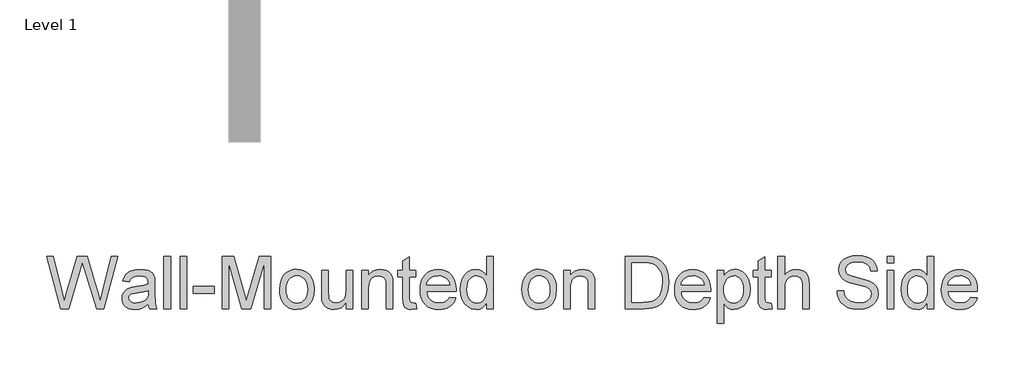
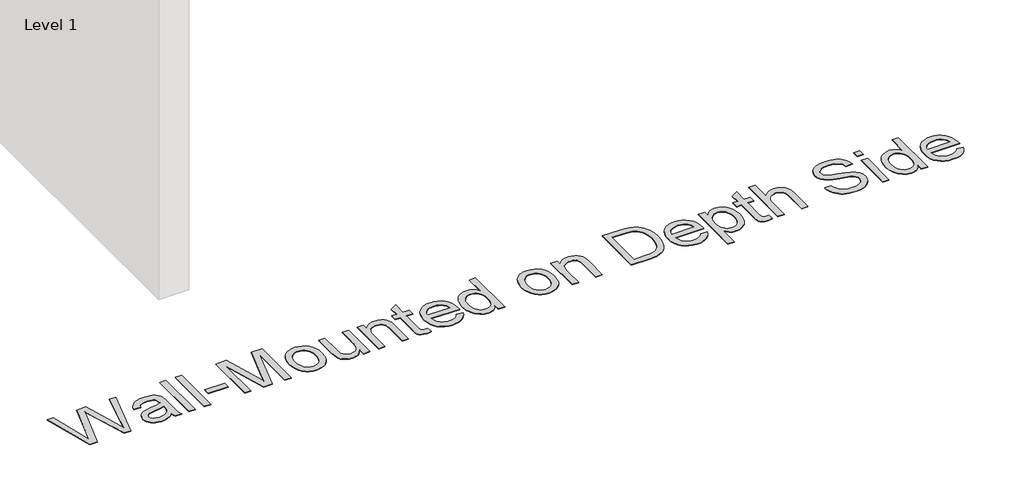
# One storey, part 59 of 80: 1 proxy.
"""IFC4 building model written with IfcOpenShell, lengths in millimetres."""

from ifc_helpers import new_model, si_unit, origin, origin_with_axes, place, context, project, spatial, polyline, outline, extrude, element, save

model = new_model("IFC4")

# Units and contexts
model_context = context("Model", 3, world=origin())
ifc_project = project(units=[si_unit("LENGTHUNIT", "METRE", prefix="MILLI")], contexts=[model_context])

# Site, building, storey
site = spatial("IfcSite", under=ifc_project)
building = spatial("IfcBuilding", under=site)
storey = spatial("IfcBuildingStorey", under=building, Name="Level 1", Elevation=0.0)

# Proxy
placement = place(None, origin())
element("IfcBuildingElementProxy", 1, Name="500mm Arial", ObjectType="500mm Arial", at=placement, inside=storey, context=model_context, shape_type="SweptSolid", body=[
    extrude(outline(polyline([(141005.9311671, 63184.635256), (140868.9564376, 63686.9168067), (140933.7036687, 63686.9168067), (141013.1661797, 63356.8040297), (141037.691646, 63254.9007171), (141063.933895, 63345.0318059), (141163.5072884, 63686.9168067), (141256.8266878, 63686.9168067), (141329.1768136, 63439.0869693), (141360.1708716, 63347.1164705), (141383.0102122, 63254.9007171), (141406.7999145, 63353.8609738), (141486.9981895, 63686.9168067), (141551.7454206, 63686.9168067), (141414.6480638, 63184.635256), (141347.5709133, 63184.635256), (141227.1508736, 63572.1376242), (141210.3509291, 63626.2162775), (141191.46632, 63561.1011644), (141081.7148581, 63184.635256), (141005.9311671, 63184.635256)])), origin_with_axes(), (0.0, 0.0, 1.0), 5.0),
    extrude(outline(polyline([(141842.1269422, 63231.7241514), (141812.1292311, 63206.0030685), (141781.242472, 63189.1724673), (141748.7615575, 63179.8834469), (141713.9813805, 63176.7871068), (141686.026181, 63178.6495094), (141661.5122109, 63184.2367172), (141640.4394704, 63193.5487302), (141622.8079594, 63206.5855484), (141608.8859251, 63222.5194373), (141598.9416149, 63240.5226624), (141592.9750288, 63260.5952238), (141590.9861668, 63282.7371214), (141593.9905364, 63308.7647725), (141603.0036453, 63332.4011907), (141616.906519, 63352.6347005), (141634.5801832, 63368.4536262), (141655.3501875, 63380.4097911), (141678.5420816, 63389.055018), (141732.8659896, 63398.4973225), (141797.0613978, 63408.4301364), (141841.7590602, 63420.0797329), (141842.1269422, 63434.0592487), (141837.8043287, 63462.079594), (141824.8364884, 63480.4123801), (141811.7613491, 63488.3524998), (141795.8351244, 63494.0240139), (141755.4294186, 63498.5612252), (141718.0280825, 63495.5415272), (141691.9084608, 63486.482433), (141674.0968409, 63469.7284738), (141661.6195099, 63443.6241806), (141598.834316, 63451.4723298), (141609.7328201, 63485.8079827), (141625.99627, 63512.7859957), (141649.1421789, 63533.4180443), (141680.6880599, 63548.7158039), (141719.2696842, 63558.1887653), (141763.5228225, 63561.3464191), (141805.9672077, 63558.5566473), (141839.6130819, 63550.1873319), (141864.9816111, 63537.6027019), (141882.5939616, 63522.1669866), (141894.274215, 63503.0831081), (141901.8464527, 63479.5539888), (141904.912136, 63424.6169442), (141904.912136, 63346.5033339), (141908.1004466, 63237.4263223), (141912.8215989, 63210.4636377), (141920.6084345, 63184.635256), (141857.8232406, 63184.635256), (141847.7677994, 63206.462921), (141842.1269422, 63231.7241514)]), holes=[polyline([(141842.1269422, 63357.2945391), (141799.94314, 63346.840559), (141740.8367662, 63338.042048), (141686.8194265, 63327.8639794), (141672.7632686, 63320.9048784), (141662.3552739, 63311.3092897), (141655.9173389, 63299.8129773), (141653.7713606, 63287.1517053), (141658.4465277, 63268.4816941), (141672.4720287, 63253.1839344), (141695.5412955, 63242.9752091), (141727.3477597, 63239.5723006), (141761.0702759, 63243.3277626), (141790.8687175, 63254.5941487), (141815.0263018, 63271.1948238), (141831.8262463, 63290.9531526), (141839.2758567, 63311.3092897), (141841.7590602, 63339.513576), (141842.1269422, 63357.2945391)])]), origin_with_axes(), (0.0, 0.0, 1.0), 5.0),
    extrude(outline(polyline([(141991.2417775, 63184.635256), (141991.2417775, 63686.9168067), (142054.0269714, 63686.9168067), (142054.0269714, 63184.635256), (141991.2417775, 63184.635256)])), origin_with_axes(), (0.0, 0.0, 1.0), 5.0),
    extrude(outline(polyline([(142148.2047621, 63184.635256), (142148.2047621, 63686.9168067), (142210.989956, 63686.9168067), (142210.989956, 63184.635256), (142148.2047621, 63184.635256)])), origin_with_axes(), (0.0, 0.0, 1.0), 5.0),
    extrude(outline(polyline([(142273.7751498, 63333.7500914), (142273.7751498, 63396.5352852), (142469.9788806, 63396.5352852), (142469.9788806, 63333.7500914), (142273.7751498, 63333.7500914)])), origin_with_axes(), (0.0, 0.0, 1.0), 5.0),
    extrude(outline(polyline([(142548.4603729, 63184.635256), (142548.4603729, 63686.9168067), (142656.4950522, 63686.9168067), (142759.2567561, 63332.8917), (142779.9807752, 63258.947419), (142802.4215769, 63339.0230666), (142903.4664982, 63686.9168067), (143011.5011775, 63686.9168067), (143011.5011775, 63184.635256), (142948.7159837, 63184.635256), (142948.7159837, 63624.1316129), (142822.5324593, 63184.635256), (142737.4290911, 63184.635256), (142611.2455667, 63624.1316129), (142611.2455667, 63184.635256), (142548.4603729, 63184.635256)])), origin_with_axes(), (0.0, 0.0, 1.0), 5.0),
    extrude(outline(polyline([(143097.830819, 63369.0667629), (143101.2260633, 63416.8377728), (143111.411796, 63458.0022352), (143128.3880173, 63492.5601502), (143152.154727, 63520.5115176), (143176.0823851, 63538.376787), (143202.4932467, 63551.1376937), (143231.3873117, 63558.7942377), (143262.7645802, 63561.3464191), (143297.4029693, 63558.2385826), (143328.7227563, 63548.9150733), (143356.723941, 63533.3758911), (143381.4065236, 63511.621036), (143401.551895, 63484.3862721), (143415.9414459, 63452.4073632), (143424.5751765, 63415.6843095), (143427.4530867, 63374.2171108), (143422.3640524, 63310.7881235), (143416.0027596, 63284.7528081), (143407.0969496, 63262.5036116), (143395.7577536, 63243.2856095), (143382.0963024, 63226.3438772), (143366.1125961, 63211.6784147), (143347.8066348, 63199.2892221), (143307.0790322, 63182.4126356), (143262.7645802, 63176.7871068), (143227.6203534, 63179.8834469), (143196.0093265, 63189.1724673), (143167.9314996, 63204.6541679), (143143.3868728, 63226.3285488), (143123.4560993, 63253.8277279), (143109.2198325, 63286.7838233), (143100.6780724, 63325.196835), (143097.830819, 63369.0667629)]), holes=[polyline([(143160.6160129, 63369.1893902), (143162.4324302, 63338.7356588), (143167.8816823, 63312.3669504), (143176.963769, 63290.083265), (143189.6786905, 63271.8846025), (143205.1450627, 63257.7479704), (143222.4815017, 63247.6503761), (143241.6880076, 63241.5918195), (143262.7645802, 63239.5723006), (143283.7338539, 63241.6033158), (143302.8637177, 63247.6963613), (143320.1541714, 63257.8514372), (143335.6052152, 63272.0685435), (143348.3201367, 63290.4473149), (143357.4022235, 63313.087386), (143362.8514755, 63339.9887569), (143364.6678929, 63371.1514275), (143362.8399792, 63400.6394687), (143357.3562382, 63426.3183984), (143348.2166699, 63448.1882166), (143335.4212742, 63466.2489233), (143319.9127489, 63480.3855554), (143302.6337914, 63490.4831497), (143283.5844019, 63496.5417063), (143262.7645802, 63498.5612252), (143241.6880076, 63496.5493705), (143222.4815017, 63490.5138066), (143205.1450627, 63480.4545333), (143189.6786905, 63466.3715506), (143176.963769, 63448.2265376), (143167.8816823, 63425.9811732), (143162.4324302, 63399.6354574), (143160.6160129, 63369.1893902)])]), origin_with_axes(), (0.0, 0.0, 1.0), 5.0),
    extrude(outline(polyline([(143733.5309067, 63184.635256), (143733.5309067, 63248.0335865), (143710.8141935, 63216.8632516), (143684.3573467, 63194.5987267), (143654.1603662, 63181.2400117), (143620.2232522, 63176.7871068), (143589.6430613, 63179.9141037), (143561.178192, 63189.2950946), (143537.2965191, 63203.3972377), (143520.4659178, 63220.6876915), (143509.1382181, 63241.6876221), (143501.7652497, 63266.9181956), (143498.0864298, 63325.2888055), (143498.0864298, 63553.4982698), (143560.8716236, 63553.4982698), (143560.8716236, 63354.8419924), (143564.6730709, 63290.8305253), (143573.8241355, 63269.4780411), (143589.5051056, 63253.2452481), (143610.6736487, 63242.9905375), (143636.2874326, 63239.5723006), (143663.3727445, 63243.0671796), (143688.710617, 63253.5518164), (143709.6032486, 63270.060521), (143723.3528382, 63291.6276029), (143730.9863896, 63321.1654615), (143733.5309067, 63361.5864957), (143733.5309067, 63553.4982698), (143796.3161005, 63553.4982698), (143796.3161005, 63184.635256), (143733.5309067, 63184.635256)])), origin_with_axes(), (0.0, 0.0, 1.0), 5.0),
    extrude(outline(polyline([(143882.6457421, 63184.635256), (143882.6457421, 63553.4982698), (143945.4309359, 63553.4982698), (143945.4309359, 63501.9947905), (143967.2432725, 63527.961128), (143993.4395363, 63546.5085119), (144024.0197271, 63557.6369423), (144058.9838451, 63561.3464191), (144089.9319179, 63558.3573778), (144118.27416, 63549.3902542), (144141.9105782, 63535.5640226), (144158.7411795, 63517.9976573), (144170.1608497, 63496.7371436), (144177.5644749, 63471.8284669), (144180.8754128, 63411.1279377), (144180.8754128, 63184.635256), (144118.090219, 63184.635256), (144118.090219, 63402.6666518), (144116.2814658, 63435.1322379), (144110.8552064, 63458.2168331), (144100.8457505, 63474.7561944), (144085.2874078, 63487.586079), (144065.3451379, 63495.8174387), (144042.1839007, 63498.5612252), (144023.1191827, 63497.0207194), (144005.4110295, 63492.3992018), (143989.0594413, 63484.6966725), (143974.0644179, 63473.9131315), (143961.5372695, 63458.8223055), (143952.5893064, 63438.1979212), (143947.2205285, 63412.0399785), (143945.4309359, 63380.3484774), (143945.4309359, 63184.635256), (143882.6457421, 63184.635256)])), origin_with_axes(), (0.0, 0.0, 1.0), 5.0),
    extrude(outline(polyline([(144400.6235913, 63236.9971266), (144408.4717405, 63182.795846), (144361.5054725, 63176.7871068), (144331.3698057, 63179.3929376), (144308.8983472, 63187.21043), (144293.0181077, 63199.2585653), (144282.6560982, 63214.5563249), (144276.9539272, 63240.8292308), (144275.0532036, 63285.8028047), (144275.0532036, 63490.713076), (144227.9643082, 63490.713076), (144227.9643082, 63553.4982698), (144275.0532036, 63553.4982698), (144275.0532036, 63643.1388493), (144337.8383974, 63680.0496762), (144337.8383974, 63553.4982698), (144400.6235913, 63553.4982698), (144400.6235913, 63490.713076), (144337.8383974, 63490.713076), (144337.8383974, 63287.6422146), (144341.1493354, 63255.2685991), (144351.8792269, 63243.8029435), (144373.2776963, 63239.5723006), (144400.6235913, 63236.9971266)])), origin_with_axes(), (0.0, 0.0, 1.0), 5.0),
    extrude(outline(polyline([(144721.6619457, 63294.5093452), (144783.2208663, 63286.661196), (144773.7823938, 63262.0054381), (144761.0406476, 63240.2774078), (144744.9956277, 63221.477105), (144725.647334, 63205.6045297), (144703.195036, 63192.9969072), (144677.8380031, 63183.9914625), (144649.5762352, 63178.5881957), (144618.4097324, 63176.7871068), (144579.452562, 63179.8949432), (144544.7413629, 63189.2184525), (144514.2761352, 63204.7576347), (144488.0568788, 63226.5124898), (144466.972642, 63253.8775453), (144451.9124728, 63286.2473287), (144442.8763713, 63323.6218402), (144439.8643374, 63366.0010796), (144442.9070281, 63409.8173581), (144452.0351001, 63448.4373034), (144467.2485535, 63481.8609155), (144488.5473881, 63510.0881944), (144514.6976666, 63532.5136677), (144544.4654514, 63548.5318629), (144577.8507425, 63558.14278), (144614.8535398, 63561.3464191), (144650.6645528, 63558.1504442), (144683.0496647, 63548.5625197), (144712.0088755, 63532.5826456), (144737.5421852, 63510.2108217), (144758.3849995, 63482.0448565), (144773.272724, 63448.682558), (144782.2053587, 63410.1239264), (144785.1829036, 63366.3689616), (144784.8150216, 63349.4463898), (144502.6495313, 63349.4463898), (144506.2861981, 63324.3920931), (144513.5173786, 63302.4494649), (144524.3430727, 63283.6185053), (144538.7632805, 63267.8992142), (144555.9809243, 63255.5061895), (144575.1989264, 63246.654029), (144596.4172869, 63241.3427327), (144619.6360057, 63239.5723006), (144653.0519536, 63242.8525817), (144681.1949263, 63252.6934251), (144704.0649236, 63269.7079674), (144721.6619457, 63294.5093452)]), holes=[polyline([(144502.6495313, 63412.2315837), (144722.3977097, 63412.2315837), (144713.905767, 63445.4022769), (144697.2591067, 63469.1306656), (144680.1372655, 63482.0065354), (144660.6548482, 63491.2035853), (144638.8118547, 63496.7218152), (144614.6082851, 63498.5612252), (144572.2865273, 63492.6904417), (144553.873267, 63485.3519623), (144537.2917525, 63475.0780912), (144523.3773824, 63462.3440092), (144512.9655556, 63447.6248973), (144506.0562718, 63430.9207554), (144502.6495313, 63412.2315837)])]), origin_with_axes(), (0.0, 0.0, 1.0), 5.0),
    extrude(outline(polyline([(145075.5644251, 63184.635256), (145075.5644251, 63243.8642572), (145056.7794507, 63214.5180039), (145034.0244165, 63193.5563944), (145007.2993224, 63180.9794287), (144976.6041684, 63176.7871068), (144936.0145216, 63182.8571597), (144898.8584401, 63201.0673184), (144867.4045295, 63230.1453245), (144843.9213955, 63268.8189192), (144829.2980862, 63315.5246042), (144824.4236497, 63368.6988809), (144828.9148758, 63421.2140357), (144842.3885538, 63468.6401563), (144852.4899803, 63489.7703784), (144864.8293555, 63508.2794412), (144879.4066796, 63524.1673449), (144896.2219525, 63537.4340894), (144934.19044, 63555.3683366), (144976.3589137, 63561.3464191), (145007.0770603, 63557.0697909), (145034.2390143, 63544.2399063), (145057.2622958, 63524.573548), (145075.5644251, 63499.7874985), (145075.5644251, 63686.9168067), (145138.3496189, 63686.9168067), (145138.3496189, 63184.635256), (145075.5644251, 63184.635256)]), holes=[polyline([(144887.2088436, 63368.9441356), (144888.9792757, 63338.4980684), (144894.290572, 63312.1523526), (144903.1427325, 63289.9069882), (144915.5357572, 63271.7619752), (144930.3353433, 63257.6789926), (144946.407188, 63247.6197192), (144963.7512912, 63241.5841553), (144982.367653, 63239.5723006), (145001.0721532, 63241.4921848), (145018.3127896, 63247.2518373), (145034.0895622, 63256.8512581), (145048.4024711, 63270.2904472), (145060.285826, 63287.6767036), (145068.7739366, 63309.1173261), (145073.866803, 63334.6123148), (145075.5644251, 63364.1616696), (145073.8361461, 63396.5582778), (145068.6513093, 63424.3410327), (145060.0099145, 63447.5099342), (145047.9119618, 63466.0649823), (145033.2848204, 63480.2820886), (145017.0558595, 63490.4371645), (144999.225079, 63496.53021), (144979.792479, 63498.5612252), (144960.8082352, 63496.6106842), (144943.464132, 63490.7590612), (144927.7601693, 63481.0063563), (144913.6963472, 63467.3525693), (144902.1080644, 63449.4987962), (144893.8307195, 63427.1461329), (144888.8643125, 63400.2945794), (144887.2088436, 63368.9441356)])]), origin_with_axes(), (0.0, 0.0, 1.0), 5.0),
    extrude(outline(polyline([(145413.034842, 63369.0667629), (145416.4300863, 63416.8377728), (145426.615819, 63458.0022352), (145443.5920402, 63492.5601502), (145467.35875, 63520.5115176), (145491.2864081, 63538.376787), (145517.6972696, 63551.1376937), (145546.5913347, 63558.7942377), (145577.9686032, 63561.3464191), (145612.6069923, 63558.2385826), (145643.9267792, 63548.9150733), (145671.927964, 63533.3758911), (145696.6105466, 63511.621036), (145716.755918, 63484.3862721), (145731.1454689, 63452.4073632), (145739.7791995, 63415.6843095), (145742.6571097, 63374.2171108), (145737.5680754, 63310.7881235), (145731.2067826, 63284.7528081), (145722.3009726, 63262.5036116), (145710.9617765, 63243.2856095), (145697.3003254, 63226.3438772), (145681.3166191, 63211.6784147), (145663.0106577, 63199.2892221), (145622.2830552, 63182.4126356), (145577.9686032, 63176.7871068), (145542.8243763, 63179.8834469), (145511.2133495, 63189.1724673), (145483.1355226, 63204.6541679), (145458.5908957, 63226.3285488), (145438.6601222, 63253.8277279), (145424.4238554, 63286.7838233), (145415.8820954, 63325.196835), (145413.034842, 63369.0667629)]), holes=[polyline([(145475.8200359, 63369.1893902), (145477.6364532, 63338.7356588), (145483.0857053, 63312.3669504), (145492.167792, 63290.083265), (145504.8827135, 63271.8846025), (145520.3490857, 63257.7479704), (145537.6855247, 63247.6503761), (145556.8920305, 63241.5918195), (145577.9686032, 63239.5723006), (145598.9378769, 63241.6033158), (145618.0677407, 63247.6963613), (145635.3581944, 63257.8514372), (145650.8092382, 63272.0685435), (145663.5241597, 63290.4473149), (145672.6062464, 63313.087386), (145678.0554985, 63339.9887569), (145679.8719158, 63371.1514275), (145678.0440022, 63400.6394687), (145672.5602612, 63426.3183984), (145663.4206929, 63448.1882166), (145650.6252972, 63466.2489233), (145635.1167719, 63480.3855554), (145617.8378144, 63490.4831497), (145598.7884248, 63496.5417063), (145577.9686032, 63498.5612252), (145556.8920305, 63496.5493705), (145537.6855247, 63490.5138066), (145520.3490857, 63480.4545333), (145504.8827135, 63466.3715506), (145492.167792, 63448.2265376), (145483.0857053, 63425.9811732), (145477.6364532, 63399.6354574), (145475.8200359, 63369.1893902)])]), origin_with_axes(), (0.0, 0.0, 1.0), 5.0),
    extrude(outline(polyline([(145813.2904528, 63184.635256), (145813.2904528, 63553.4982698), (145876.0756466, 63553.4982698), (145876.0756466, 63501.9947905), (145897.8879832, 63527.961128), (145924.084247, 63546.5085119), (145954.6644378, 63557.6369423), (145989.6285558, 63561.3464191), (146020.5766286, 63558.3573778), (146048.9188707, 63549.3902542), (146072.5552889, 63535.5640226), (146089.3858901, 63517.9976573), (146100.8055604, 63496.7371436), (146108.2091856, 63471.8284669), (146111.5201235, 63411.1279377), (146111.5201235, 63184.635256), (146048.7349297, 63184.635256), (146048.7349297, 63402.6666518), (146046.9261765, 63435.1322379), (146041.4999171, 63458.2168331), (146031.4904612, 63474.7561944), (146015.9321184, 63487.586079), (145995.9898486, 63495.8174387), (145972.8286113, 63498.5612252), (145953.7638934, 63497.0207194), (145936.0557402, 63492.3992018), (145919.704152, 63484.6966725), (145904.7091286, 63473.9131315), (145892.1819802, 63458.8223055), (145883.2340171, 63438.1979212), (145877.8652392, 63412.0399785), (145876.0756466, 63380.3484774), (145876.0756466, 63184.635256), (145813.2904528, 63184.635256)])), origin_with_axes(), (0.0, 0.0, 1.0), 5.0),
    extrude(outline(polyline([(146401.901645, 63184.635256), (146401.901645, 63686.9168067), (146575.1740648, 63686.9168067), (146626.9534556, 63685.1080536), (146664.8146443, 63679.6817942), (146704.8524681, 63665.7329352), (146738.636298, 63643.751986), (146757.2526598, 63625.7870819), (146773.3704897, 63605.4922585), (146786.9897877, 63582.8675158), (146798.1105539, 63557.9128538), (146812.9178042, 63501.9334768), (146817.8535543, 63438.4738327), (146814.5119595, 63384.563792), (146804.4871751, 63337.122343), (146789.2200723, 63296.7319656), (146770.1515222, 63263.9751396), (146748.2012298, 63238.116101), (146724.2889002, 63218.4190859), (146696.8357063, 63203.811105), (146664.2628213, 63193.2191692), (146626.5089315, 63186.7812343), (146583.5127233, 63184.635256), (146401.901645, 63184.635256)]), holes=[polyline([(146464.6868389, 63247.4204498), (146575.7872014, 63247.4204498), (146621.741794, 63249.6890555), (146656.598613, 63256.4948724), (146682.9021757, 63267.4393617), (146703.1969991, 63282.1239847), (146725.0093357, 63309.3012671), (146741.3954129, 63344.4799829), (146751.6501235, 63387.8134162), (146755.0683604, 63439.4548513), (146753.3937309, 63475.9058257), (146748.3698424, 63507.8809024), (146739.9966949, 63535.3800816), (146728.2742884, 63558.4033631), (146714.1529848, 63577.4719132), (146698.5831457, 63593.106898), (146681.5647714, 63605.3083175), (146663.0978616, 63614.0761717), (146626.9841124, 63621.6177526), (146574.0704188, 63624.1316129), (146464.6868389, 63624.1316129), (146464.6868389, 63247.4204498)])]), origin_with_axes(), (0.0, 0.0, 1.0), 5.0),
    extrude(outline(polyline([(147154.5882072, 63294.5093452), (147216.1471277, 63286.661196), (147206.7086553, 63262.0054381), (147193.9669091, 63240.2774078), (147177.9218891, 63221.477105), (147158.5735955, 63205.6045297), (147136.1212974, 63192.9969072), (147110.7642645, 63183.9914625), (147082.5024966, 63178.5881957), (147051.3359939, 63176.7871068), (147012.3788234, 63179.8949432), (146977.6676243, 63189.2184525), (146947.2023966, 63204.7576347), (146920.9831402, 63226.5124898), (146899.8989034, 63253.8775453), (146884.8387342, 63286.2473287), (146875.8026327, 63323.6218402), (146872.7905989, 63366.0010796), (146875.8332895, 63409.8173581), (146884.9613615, 63448.4373034), (146900.1748149, 63481.8609155), (146921.4736496, 63510.0881944), (146947.6239281, 63532.5136677), (146977.3917128, 63548.5318629), (147010.7770039, 63558.14278), (147047.7798012, 63561.3464191), (147083.5908142, 63558.1504442), (147115.9759261, 63548.5625197), (147144.9351369, 63532.5826456), (147170.4684466, 63510.2108217), (147191.3112609, 63482.0448565), (147206.1989854, 63448.682558), (147215.1316201, 63410.1239264), (147218.109165, 63366.3689616), (147217.741283, 63349.4463898), (146935.5757927, 63349.4463898), (146939.2124595, 63324.3920931), (146946.44364, 63302.4494649), (146957.2693341, 63283.6185053), (146971.6895419, 63267.8992142), (146988.9071857, 63255.5061895), (147008.1251878, 63246.654029), (147029.3435483, 63241.3427327), (147052.5622672, 63239.5723006), (147085.9782151, 63242.8525817), (147114.1211877, 63252.6934251), (147136.9911851, 63269.7079674), (147154.5882072, 63294.5093452)]), holes=[polyline([(146935.5757927, 63412.2315837), (147155.3239712, 63412.2315837), (147146.8320284, 63445.4022769), (147130.1853682, 63469.1306656), (147113.063527, 63482.0065354), (147093.5811096, 63491.2035853), (147071.7381162, 63496.7218152), (147047.5345466, 63498.5612252), (147005.2127887, 63492.6904417), (146986.7995284, 63485.3519623), (146970.2180139, 63475.0780912), (146956.3036439, 63462.3440092), (146945.891817, 63447.6248973), (146938.9825333, 63430.9207554), (146935.5757927, 63412.2315837)])]), origin_with_axes(), (0.0, 0.0, 1.0), 5.0),
    extrude(outline(polyline([(147280.8943589, 63043.3685698), (147280.8943589, 63553.4982698), (147343.6795527, 63553.4982698), (147343.6795527, 63491.9393493), (147364.1583171, 63522.3049423), (147387.0896281, 63543.9946516), (147413.8223864, 63557.0084772), (147445.7054927, 63561.3464191), (147467.6021356, 63559.8289058), (147488.1652063, 63555.2763661), (147507.3947048, 63547.6888), (147525.290631, 63537.0662074), (147541.4621104, 63523.6844998), (147555.5182683, 63507.8195888), (147577.2846196, 63468.6401563), (147590.436401, 63422.3789954), (147594.8203281, 63371.8871915), (147589.8692496, 63318.1917487), (147575.016014, 63270.1678199), (147563.9948826, 63248.8919778), (147550.7358023, 63230.2526234), (147535.2387733, 63214.2497566), (147517.5037954, 63200.8833774), (147478.7995438, 63182.8111744), (147438.1025981, 63176.7871068), (147409.2391899, 63180.8184803), (147383.4721218, 63192.9126009), (147361.4145305, 63211.1687449), (147343.6795527, 63233.6861887), (147343.6795527, 63043.3685698), (147280.8943589, 63043.3685698)]), holes=[polyline([(147343.6795527, 63366.1237069), (147345.3771748, 63335.8654128), (147350.4700412, 63309.8377617), (147358.9581518, 63288.0407535), (147370.8415067, 63270.4743882), (147385.1467513, 63256.9547249), (147400.9005314, 63247.2978225), (147418.1028467, 63241.5036811), (147436.7536975, 63239.5723006), (147455.6727955, 63241.572659), (147473.1893434, 63247.573734), (147489.3033412, 63257.5755257), (147504.0147889, 63271.5780342), (147516.27369, 63289.7805287), (147525.0300479, 63312.3822788), (147530.2838626, 63339.3832844), (147532.0351342, 63370.7835456), (147530.3260158, 63400.7812566), (147525.1986605, 63426.7629225), (147516.6530683, 63448.7285433), (147504.6892393, 63466.678119), (147490.3495057, 63480.6269779), (147474.6761998, 63490.5904486), (147457.6693217, 63496.5685311), (147439.3288714, 63498.5612252), (147421.0459027, 63496.4420716), (147403.8435873, 63490.0846109), (147387.7219253, 63479.488843), (147372.6809167, 63464.654768), (147359.9928199, 63445.7816552), (147350.9298937, 63423.0687741), (147345.4921379, 63396.5161247), (147343.6795527, 63366.1237069)])]), origin_with_axes(), (0.0, 0.0, 1.0), 5.0),
    extrude(outline(polyline([(147798.8722081, 63236.9971266), (147806.7203573, 63182.795846), (147759.7540892, 63176.7871068), (147729.6184225, 63179.3929376), (147707.1469639, 63187.21043), (147691.2667245, 63199.2585653), (147680.9047149, 63214.5563249), (147675.202544, 63240.8292308), (147673.3018204, 63285.8028047), (147673.3018204, 63490.713076), (147626.212925, 63490.713076), (147626.212925, 63553.4982698), (147673.3018204, 63553.4982698), (147673.3018204, 63643.1388493), (147736.0870142, 63680.0496762), (147736.0870142, 63553.4982698), (147798.8722081, 63553.4982698), (147798.8722081, 63490.713076), (147736.0870142, 63490.713076), (147736.0870142, 63287.6422146), (147739.3979522, 63255.2685991), (147750.1278437, 63243.8029435), (147771.5263131, 63239.5723006), (147798.8722081, 63236.9971266)])), origin_with_axes(), (0.0, 0.0, 1.0), 5.0),
    extrude(outline(polyline([(147861.6574019, 63184.635256), (147861.6574019, 63686.9168067), (147924.4425958, 63686.9168067), (147924.4425958, 63502.2400452), (147947.5041983, 63528.0990837), (147973.4015579, 63546.5698256), (148002.1346746, 63557.6522707), (148033.7035483, 63561.3464191), (148071.6260507, 63557.3150455), (148104.2142641, 63545.2209249), (148129.8740332, 63526.0144191), (148147.0112028, 63500.6458898), (148156.6681052, 63465.7890708), (148159.8870727, 63418.1176956), (148159.8870727, 63184.635256), (148097.1018788, 63184.635256), (148097.1018788, 63411.618447), (148092.1048151, 63450.9205068), (148085.8584853, 63465.9270266), (148077.1136237, 63477.8372061), (148066.0771639, 63486.9039645), (148052.9560394, 63493.3802204), (148020.4597965, 63498.5612252), (147993.9263076, 63495.0663463), (147969.0176308, 63484.5817094), (147948.3855823, 63468.1189901), (147934.681978, 63446.6898639), (147927.0024413, 63418.2096661), (147924.4425958, 63380.5937321), (147924.4425958, 63184.635256), (147861.6574019, 63184.635256)])), origin_with_axes(), (0.0, 0.0, 1.0), 5.0),
    extrude(outline(polyline([(148426.7241465, 63357.2945391), (148489.5093403, 63357.2945391), (148496.7136961, 63322.4530484), (148509.7428501, 63294.4480316), (148530.0683303, 63272.2218277), (148559.1616648, 63254.7167761), (148594.723591, 63243.3584195), (148634.4548464, 63239.5723006), (148669.4342928, 63242.4387145), (148700.0604689, 63251.0379561), (148724.8771752, 63264.6495899), (148742.428212, 63282.5531804), (148752.8668636, 63303.1085869), (148756.3464142, 63324.6756688), (148753.7405834, 63345.6909278), (148745.923091, 63363.8551013), (148730.0428515, 63379.3521304), (148703.2487795, 63392.3659559), (148611.8301037, 63416.3395993), (148551.8193533, 63432.2045103), (148513.42167, 63447.3030005), (148482.1670289, 63468.4255584), (148460.0174671, 63494.0240139), (148446.8197005, 63523.546544), (148442.420445, 63556.4413258), (148447.8620328, 63593.2141969), (148464.1867963, 63627.5038645), (148476.3230701, 63643.0315504), (148490.9655399, 63656.5665421), (148527.7690678, 63677.6584432), (148571.9455641, 63690.4883278), (148620.8432126, 63694.764956), (148673.8182199, 63690.2890584), (148720.1713513, 63676.8613655), (148758.2471378, 63654.757789), (148773.5602259, 63640.5560111), (148786.3901105, 63624.2542402), (148804.2017304, 63587.2514429), (148811.2834588, 63545.6501206), (148748.4982649, 63545.6501206), (148744.2982788, 63565.6843609), (148736.9712958, 63583.1127704), (148726.5173157, 63597.9353492), (148712.9363387, 63610.1520971), (148695.9754459, 63619.7017005), (148675.3817184, 63626.5228459), (148623.2957593, 63631.9797621), (148569.9835268, 63626.5841595), (148549.6043971, 63619.8396563), (148533.4099251, 63610.3973517), (148521.0705498, 63599.0466593), (148512.2567104, 63586.5769926), (148506.9684067, 63572.9883514), (148505.2056388, 63558.2807358), (148510.2027026, 63534.1538082), (148525.1938939, 63514.748033), (148538.9588119, 63506.1181345), (148560.6331927, 63497.3962656), (148627.7103432, 63479.6766161), (148696.933472, 63462.8460148), (148738.8107057, 63448.1613919), (148774.6025582, 63425.383365), (148799.5725486, 63397.2710492), (148814.2418432, 63364.1310128), (148819.131608, 63326.2698241), (148813.5060792, 63287.5655726), (148796.6294926, 63251.1605835), (148769.1916272, 63219.8293002), (148731.8822615, 63196.3461662), (148687.0159865, 63181.6768716), (148636.9073931, 63176.7871068), (148575.3944578, 63182.060082), (148548.719181, 63188.6513011), (148524.7646982, 63197.8790078), (148503.3853893, 63209.7585306), (148484.4356345, 63224.3051978), (148467.9154336, 63241.5190095), (148453.8247868, 63261.3999657), (148442.4740944, 63283.3042728), (148434.1737569, 63306.5881374), (148428.9237743, 63331.2515595), (148426.7241465, 63357.2945391)])), origin_with_axes(), (0.0, 0.0, 1.0), 5.0),
    extrude(outline(polyline([(148905.4612496, 63624.1316129), (148905.4612496, 63686.9168067), (148968.2464434, 63686.9168067), (148968.2464434, 63624.1316129), (148905.4612496, 63624.1316129)])), origin_with_axes(), (0.0, 0.0, 1.0), 5.0),
    extrude(outline(polyline([(148905.4612496, 63184.635256), (148905.4612496, 63553.4982698), (148968.2464434, 63553.4982698), (148968.2464434, 63184.635256), (148905.4612496, 63184.635256)])), origin_with_axes(), (0.0, 0.0, 1.0), 5.0),
    extrude(outline(polyline([(149290.0205618, 63184.635256), (149290.0205618, 63243.8642572), (149271.2355875, 63214.5180039), (149248.4805532, 63193.5563944), (149221.7554591, 63180.9794287), (149191.0603051, 63176.7871068), (149150.4706583, 63182.8571597), (149113.3145768, 63201.0673184), (149081.8606662, 63230.1453245), (149058.3775322, 63268.8189192), (149043.7542229, 63315.5246042), (149038.8797865, 63368.6988809), (149043.3710125, 63421.2140357), (149056.8446906, 63468.6401563), (149066.946117, 63489.7703784), (149079.2854923, 63508.2794412), (149093.8628163, 63524.1673449), (149110.6780892, 63537.4340894), (149148.6465768, 63555.3683366), (149190.8150505, 63561.3464191), (149221.5331971, 63557.0697909), (149248.6951511, 63544.2399063), (149271.7184326, 63524.573548), (149290.0205618, 63499.7874985), (149290.0205618, 63686.9168067), (149352.8057557, 63686.9168067), (149352.8057557, 63184.635256), (149290.0205618, 63184.635256)]), holes=[polyline([(149101.6649803, 63368.9441356), (149103.4354124, 63338.4980684), (149108.7467087, 63312.1523526), (149117.5988692, 63289.9069882), (149129.9918939, 63271.7619752), (149144.79148, 63257.6789926), (149160.8633247, 63247.6197192), (149178.2074279, 63241.5841553), (149196.8237897, 63239.5723006), (149215.5282899, 63241.4921848), (149232.7689263, 63247.2518373), (149248.545699, 63256.8512581), (149262.8586079, 63270.2904472), (149274.7419627, 63287.6767036), (149283.2300734, 63309.1173261), (149288.3229397, 63334.6123148), (149290.0205618, 63364.1616696), (149288.2922829, 63396.5582778), (149283.107446, 63424.3410327), (149274.4660512, 63447.5099342), (149262.3680985, 63466.0649823), (149247.7409571, 63480.2820886), (149231.5119962, 63490.4371645), (149213.6812157, 63496.53021), (149194.2486158, 63498.5612252), (149175.264372, 63496.6106842), (149157.9202687, 63490.7590612), (149142.2163061, 63481.0063563), (149128.152484, 63467.3525693), (149116.5642011, 63449.4987962), (149108.2868562, 63427.1461329), (149103.3204493, 63400.2945794), (149101.6649803, 63368.9441356)])]), origin_with_axes(), (0.0, 0.0, 1.0), 5.0),
    extrude(outline(polyline([(149705.2367071, 63294.5093452), (149766.7956276, 63286.661196), (149757.3571552, 63262.0054381), (149744.615409, 63240.2774078), (149728.570389, 63221.477105), (149709.2220954, 63205.6045297), (149686.7697973, 63192.9969072), (149661.4127644, 63183.9914625), (149633.1509965, 63178.5881957), (149601.9844938, 63176.7871068), (149563.0273233, 63179.8949432), (149528.3161242, 63189.2184525), (149497.8508965, 63204.7576347), (149471.6316401, 63226.5124898), (149450.5474033, 63253.8775453), (149435.4872341, 63286.2473287), (149426.4511326, 63323.6218402), (149423.4390988, 63366.0010796), (149426.4817894, 63409.8173581), (149435.6098614, 63448.4373034), (149450.8233148, 63481.8609155), (149472.1221495, 63510.0881944), (149498.272428, 63532.5136677), (149528.0402127, 63548.5318629), (149561.4255038, 63558.14278), (149598.4283011, 63561.3464191), (149634.2393141, 63558.1504442), (149666.624426, 63548.5625197), (149695.5836368, 63532.5826456), (149721.1169465, 63510.2108217), (149741.9597608, 63482.0448565), (149756.8474853, 63448.682558), (149765.78012, 63410.1239264), (149768.7576649, 63366.3689616), (149768.3897829, 63349.4463898), (149486.2242926, 63349.4463898), (149489.8609594, 63324.3920931), (149497.0921399, 63302.4494649), (149507.917834, 63283.6185053), (149522.3380418, 63267.8992142), (149539.5556856, 63255.5061895), (149558.7736877, 63246.654029), (149579.9920482, 63241.3427327), (149603.2107671, 63239.5723006), (149636.626715, 63242.8525817), (149664.7696876, 63252.6934251), (149687.639685, 63269.7079674), (149705.2367071, 63294.5093452)]), holes=[polyline([(149486.2242926, 63412.2315837), (149705.9724711, 63412.2315837), (149697.4805283, 63445.4022769), (149680.8338681, 63469.1306656), (149663.7120269, 63482.0065354), (149644.2296095, 63491.2035853), (149622.3866161, 63496.7218152), (149598.1830465, 63498.5612252), (149555.8612886, 63492.6904417), (149537.4480283, 63485.3519623), (149520.8665138, 63475.0780912), (149506.9521438, 63462.3440092), (149496.5403169, 63447.6248973), (149489.6310332, 63430.9207554), (149486.2242926, 63412.2315837)])]), origin_with_axes(), (0.0, 0.0, 1.0), 5.0),
])

save(model, "model.ifc")
